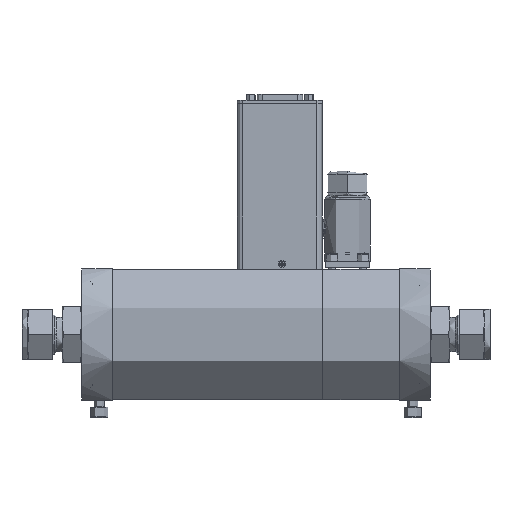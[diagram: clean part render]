
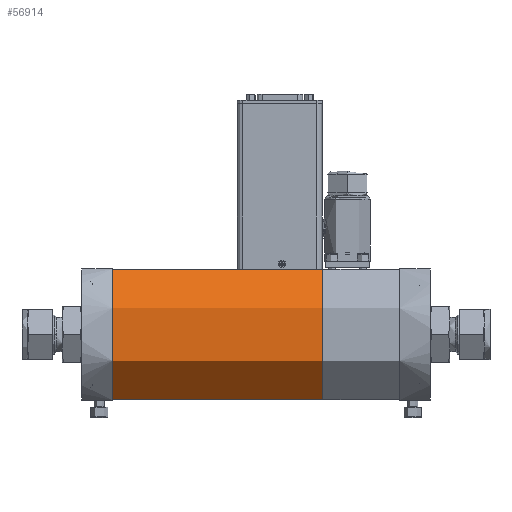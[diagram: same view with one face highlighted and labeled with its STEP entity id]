
A CAD part, front view. The second image highlights one B-rep face of the part: STEP entity #56914.
In plain terms, the highlighted cylindrical face has radius 42 mm (diameter 84 mm), a partial arc.
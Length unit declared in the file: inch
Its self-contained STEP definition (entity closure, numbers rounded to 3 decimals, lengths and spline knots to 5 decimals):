
#2331 = DIRECTION ( 'NONE',  ( -1., 0., 0. ) ) ;
#5480 = DIRECTION ( 'NONE',  ( 0., 0., 1. ) ) ;
#8123 = CARTESIAN_POINT ( 'NONE',  ( -12.72824, -0.02996, 1.485 ) ) ;
#8625 = VECTOR ( 'NONE', #64032, 39.37008 ) ;
#10372 = LINE ( 'NONE', #69478, #8625 ) ;
#13646 = DIRECTION ( 'NONE',  ( 0., 0., 1. ) ) ;
#15841 = AXIS2_PLACEMENT_3D ( 'NONE', #25941, #48749, #13646 ) ;
#17336 = CARTESIAN_POINT ( 'NONE',  ( -2.72824, -0.02996, 1.485 ) ) ;
#22658 = EDGE_CURVE ( 'NONE', #70068, #33811, #10372, .T. ) ;
#25681 = DIRECTION ( 'NONE',  ( 0., 0., 1. ) ) ;
#25941 = CARTESIAN_POINT ( 'NONE',  ( -2.72824, 0.73011, 0.0165 ) ) ;
#26664 = CARTESIAN_POINT ( 'NONE',  ( 1.99617, -0.02996, -1.45201 ) ) ;
#27954 = EDGE_CURVE ( 'NONE', #70068, #30050, #31275, .T. ) ;
#30050 = VERTEX_POINT ( 'NONE', #17336 ) ;
#30289 = ORIENTED_EDGE ( 'NONE', *, *, #58254, .T. ) ;
#30758 = AXIS2_PLACEMENT_3D ( 'NONE', #75021, #34376, #5480 ) ;
#30958 = ORIENTED_EDGE ( 'NONE', *, *, #67826, .T. ) ;
#31275 = CIRCLE ( 'NONE', #44835, 1.65354 ) ;
#33811 = VERTEX_POINT ( 'NONE', #26664 ) ;
#34376 = DIRECTION ( 'NONE',  ( -1., 0., 0. ) ) ;
#35821 = EDGE_LOOP ( 'NONE', ( #30958, #74360, #70913, #30289 ) ) ;
#37450 = CYLINDRICAL_SURFACE ( 'NONE', #15841, 1.65354 ) ;
#37563 = DIRECTION ( 'NONE',  ( -1., 0., 0. ) ) ;
#42630 = CARTESIAN_POINT ( 'NONE',  ( -2.72824, 0.73011, 0.0165 ) ) ;
#44835 = AXIS2_PLACEMENT_3D ( 'NONE', #42630, #37563, #25681 ) ;
#48749 = DIRECTION ( 'NONE',  ( 1., 0., 0. ) ) ;
#49866 = CARTESIAN_POINT ( 'NONE',  ( 1.99617, -0.02996, 1.485 ) ) ;
#52822 = VERTEX_POINT ( 'NONE', #49866 ) ;
#56505 = VECTOR ( 'NONE', #2331, 39.37008 ) ;
#56914 = ADVANCED_FACE ( 'NONE', ( #66915 ), #37450, .T. ) ;
#58254 = EDGE_CURVE ( 'NONE', #33811, #52822, #64060, .T. ) ;
#60986 = LINE ( 'NONE', #8123, #56505 ) ;
#64032 = DIRECTION ( 'NONE',  ( 1., 0., 0. ) ) ;
#64060 = CIRCLE ( 'NONE', #30758, 1.65354 ) ;
#66915 = FACE_OUTER_BOUND ( 'NONE', #35821, .T. ) ;
#67826 = EDGE_CURVE ( 'NONE', #52822, #30050, #60986, .T. ) ;
#69478 = CARTESIAN_POINT ( 'NONE',  ( -2.72824, -0.02996, -1.45201 ) ) ;
#70068 = VERTEX_POINT ( 'NONE', #72151 ) ;
#70913 = ORIENTED_EDGE ( 'NONE', *, *, #22658, .T. ) ;
#72151 = CARTESIAN_POINT ( 'NONE',  ( -2.72824, -0.02996, -1.45201 ) ) ;
#74360 = ORIENTED_EDGE ( 'NONE', *, *, #27954, .F. ) ;
#75021 = CARTESIAN_POINT ( 'NONE',  ( 1.99617, 0.73011, 0.0165 ) ) ;
